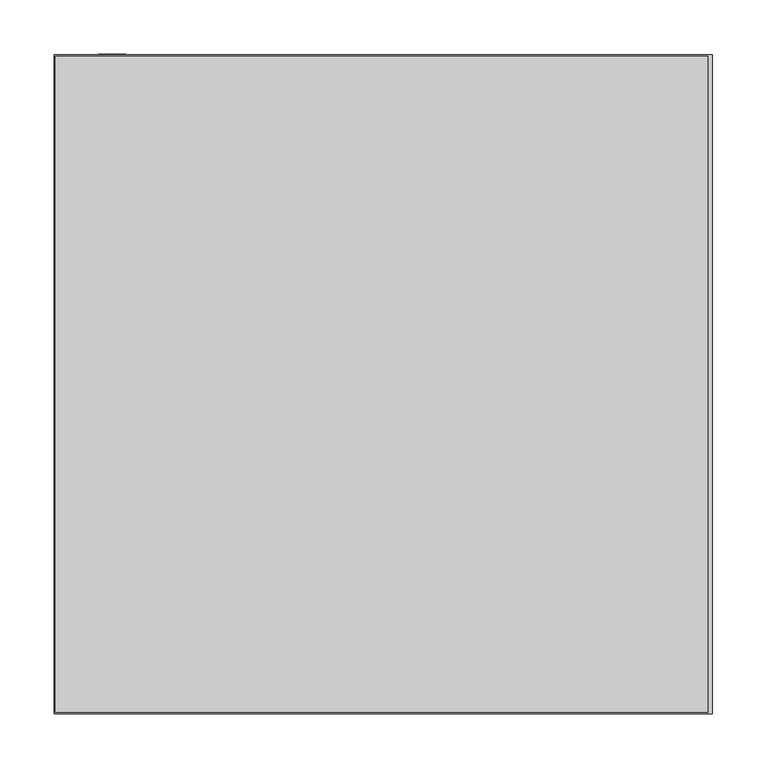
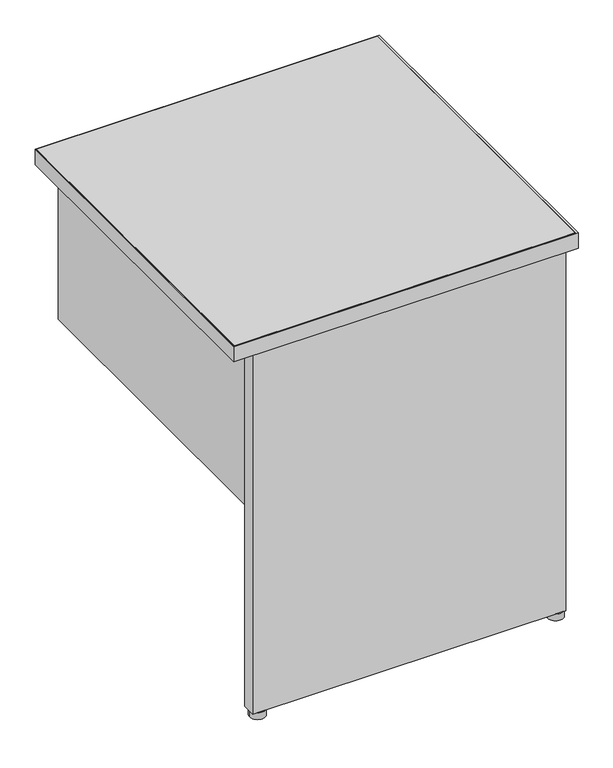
"""IFC4 building model written with IfcOpenShell, lengths in millimetres: furniture geometry, Steelcase - Kick Freestanding - Desk - Return - Partial Height Modesty Panel : 24D x 24W - Left."""

from ifc_helpers import new_model, si_unit, point, frame, frame_2d, origin, origin_with_axes, place, context, project, spatial, polyline, circle_curve, trimmed, segment, composite_curve, outline, extrude, source, transform, mapped, element, save


def furniture_cf635627(model_context):
    return source(origin(), model_context, "Body", "SweptSolid", [
        extrude(outline(composite_curve([segment(trimmed(circle_curve(frame_2d((2220.2474425, -1131.0145152)), 13.97), [point((2206.2774425, -1131.0145152))], [point((2234.2174425, -1131.0145152))], False, "CARTESIAN"), True, "CONTINUOUS"), segment(trimmed(circle_curve(frame_2d((2220.2474425, -1131.0145152)), 13.97), [point((2234.2174425, -1131.0145152))], [point((2206.2774425, -1131.0145152))], False, "CARTESIAN"), True, "CONTINUOUS")], self_intersect=False)), origin_with_axes(), (0.0, 0.0, 1.0), 12.7),
        extrude(outline(composite_curve([segment(trimmed(circle_curve(frame_2d((2748.0594425, -1131.0145152)), 13.97), [point((2734.0894425, -1131.0145152))], [point((2762.0294425, -1131.0145152))], False, "CARTESIAN"), True, "CONTINUOUS"), segment(trimmed(circle_curve(frame_2d((2748.0594425, -1131.0145152)), 13.97), [point((2762.0294425, -1131.0145152))], [point((2734.0894425, -1131.0145152))], False, "CARTESIAN"), True, "CONTINUOUS")], self_intersect=False)), origin_with_axes(), (0.0, 0.0, 1.0), 12.7),
        extrude(outline(polyline([(2205.0074425, -1118.4669152), (2328.2736437, -1118.4669152), (2328.2736437, -1140.8951136), (2427.9940467, -1140.8951136), (2427.9940467, -1118.4669041), (2536.7314502, -1118.4669041), (2536.7314502, -1140.8951136), (2636.4518532, -1140.8951136), (2636.4518532, -1118.4669041), (2759.4894376, -1118.4669041), (2759.4894376, -1142.9525098), (2205.0074425, -1142.9525098), (2205.0074425, -1118.4669152)])), frame((0.0, 0.0, 12.7), z_axis=(0.0, 0.0, 1.0), x_axis=(1.0, 0.0, 0.0)), (0.0, 0.0, 1.0), 682.244),
        extrude(outline(polyline([(2230.4074426, -546.0525152), (2230.4074426, -1118.4669152), (2205.0074425, -1118.4669152), (2205.0074425, -546.0525152), (2230.4074426, -546.0525152)])), frame((0.0, 0.0, 390.144), z_axis=(0.0, 0.0, 1.0), x_axis=(1.0, 0.0, 0.0)), (0.0, 0.0, 1.0), 304.8),
        extrude(outline(polyline([(2769.2176592, -548.0845152), (2769.2176592, -1155.1445152), (2164.8500425, -1155.1445152), (2164.8500425, -548.0845152), (2769.2176592, -548.0845152)])), frame((0.0, 0.0, 694.944), z_axis=(0.0, 0.0, 1.0), x_axis=(1.0, 0.0, 0.0)), (0.0, 0.0, 1.0), 28.956),
        extrude(outline(polyline([(2773.4594425, -546.8145152), (2773.4594425, -1156.4145152), (2163.8594425, -1156.4145152), (2163.8594425, -546.8145152), (2773.4594425, -546.8145152)]), holes=[polyline([(2769.2176592, -548.0845152), (2164.8500425, -548.0845152), (2164.8500425, -1155.1445152), (2769.2176592, -1155.1445152), (2769.2176592, -548.0845152)])]), frame((0.0, 0.0, 694.944), z_axis=(0.0, 0.0, 1.0), x_axis=(1.0, 0.0, 0.0)), (0.0, 0.0, 1.0), 28.956),
    ])


if __name__ == "__main__":
    model = new_model("IFC4")
    model_context = context("Model", 3, world=origin())
    ifc_project = project(units=[si_unit("LENGTHUNIT", "METRE", prefix="MILLI")], contexts=[model_context])
    site = spatial("IfcSite", under=ifc_project)
    building = spatial("IfcBuilding", under=site)
    placement = place(None, origin())
    furniture_shape = furniture_cf635627(model_context)
    element("IfcFurniture", 1, ObjectType="Steelcase - Kick Freestanding - Desk - Return - Partial Height Modesty Panel : 24D x 24W - Left", at=placement, inside=building, context=model_context, shape_type="MappedRepresentation", body=[
        mapped(furniture_shape, transform((0.0, 0.0, 0.0), x_axis=(1.0, 0.0, 0.0), y_axis=(0.0, 1.0, 0.0), z_axis=(0.0, 0.0, 1.0))),
    ])
    save(model, "model.ifc")
